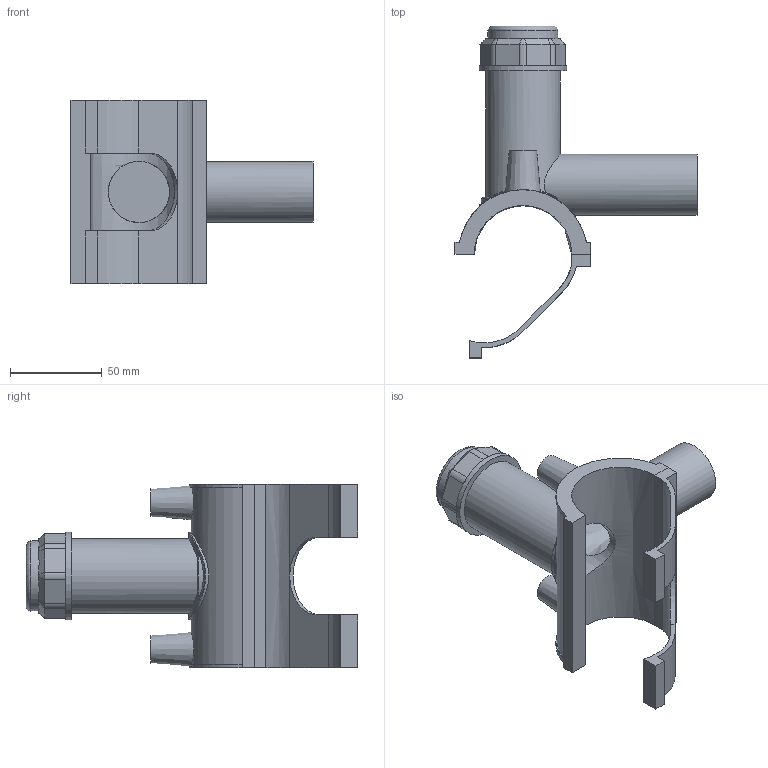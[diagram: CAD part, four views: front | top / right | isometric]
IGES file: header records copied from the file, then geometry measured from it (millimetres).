
Global section: file name: 5963BB03015010.ipt; native system: Autodesk Inventor 2019; preprocessor: unknown; author: KIM; date: 20210830.101337; units: millimetre
Bounding box: 132.08 x 181.08 x 100.08 mm (x, y, z)
Volume: 190874.6 mm3; surface area: 76886.2 mm2
Topology: 2 solids, 2 shells, 111 faces, 286 edges, 187 vertices
Faces by surface type: plane 66, cylinder 23, cone 11, revolution 10, bspline 1
Full cylindrical faces by diameter (mm): 4 x2, 33.3 x1, 38.232 x1, 40.621 x1, 47.79 x1
